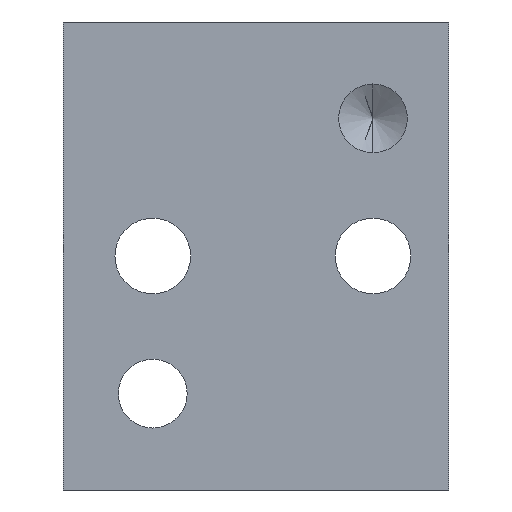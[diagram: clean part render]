
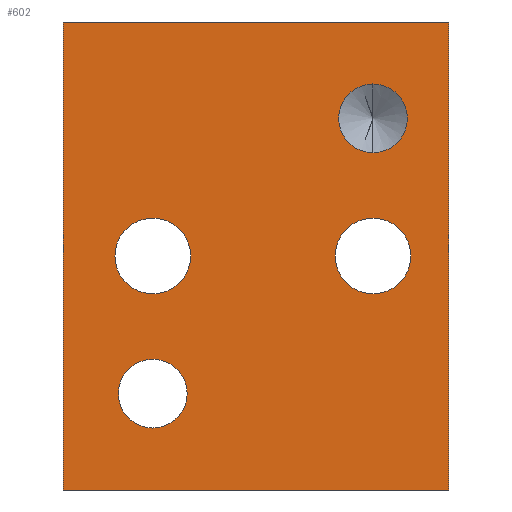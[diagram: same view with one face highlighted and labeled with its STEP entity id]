
A CAD part, front view. The second image highlights one B-rep face of the part: STEP entity #602.
In plain terms, the highlighted planar face has unit normal (0, -1, 0).
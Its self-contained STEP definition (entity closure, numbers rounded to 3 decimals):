
#10 = CIRCLE ( 'NONE', #516, 2.5 ) ;
#18 = CIRCLE ( 'NONE', #518, 2.5 ) ;
#30 = CIRCLE ( 'NONE', #521, 2.75 ) ;
#39 = FACE_BOUND ( 'NONE', #966, .T. ) ;
#43 = FACE_OUTER_BOUND ( 'NONE', #972, .T. ) ;
#44 = FACE_BOUND ( 'NONE', #454, .T. ) ;
#45 = FACE_BOUND ( 'NONE', #968, .T. ) ;
#47 = FACE_BOUND ( 'NONE', #798, .T. ) ;
#138 = VERTEX_POINT ( 'NONE', #778 ) ;
#140 = VERTEX_POINT ( 'NONE', #785 ) ;
#153 = VERTEX_POINT ( 'NONE', #771 ) ;
#230 = CARTESIAN_POINT ( 'NONE',  ( -28., 0., -17. ) ) ;
#231 = CARTESIAN_POINT ( 'NONE',  ( -21.5, 0., -10. ) ) ;
#232 = DIRECTION ( 'NONE',  ( 0., -1., 0. ) ) ;
#233 = DIRECTION ( 'NONE',  ( 0., 0., -1. ) ) ;
#234 = CARTESIAN_POINT ( 'NONE',  ( -5.5, 0., 10. ) ) ;
#235 = DIRECTION ( 'NONE',  ( 0., -1., 0. ) ) ;
#236 = DIRECTION ( 'NONE',  ( 0., 0., -1. ) ) ;
#237 = DIRECTION ( 'NONE',  ( 1., 0., 0. ) ) ;
#238 = CARTESIAN_POINT ( 'NONE',  ( -21.5, 0., 0. ) ) ;
#239 = DIRECTION ( 'NONE',  ( 0., 1., 0. ) ) ;
#240 = DIRECTION ( 'NONE',  ( 0., 0., 1. ) ) ;
#241 = CARTESIAN_POINT ( 'NONE',  ( -28., 0., 17. ) ) ;
#242 = CARTESIAN_POINT ( 'NONE',  ( 0., 0., 17. ) ) ;
#243 = CARTESIAN_POINT ( 'NONE',  ( -5.5, 0., 0. ) ) ;
#244 = DIRECTION ( 'NONE',  ( 0., 1., 0. ) ) ;
#245 = DIRECTION ( 'NONE',  ( 0., 0., 1. ) ) ;
#246 = CARTESIAN_POINT ( 'NONE',  ( -28., 0., 17. ) ) ;
#247 = DIRECTION ( 'NONE',  ( 0., 0., -1. ) ) ;
#248 = DIRECTION ( 'NONE',  ( 1., 0., 0. ) ) ;
#249 = DIRECTION ( 'NONE',  ( 0., 0., -1. ) ) ;
#335 = CARTESIAN_POINT ( 'NONE',  ( -21.5, 0., -10. ) ) ;
#336 = DIRECTION ( 'NONE',  ( 0., -1., 0. ) ) ;
#337 = DIRECTION ( 'NONE',  ( 0., 0., -1. ) ) ;
#352 = CARTESIAN_POINT ( 'NONE',  ( -5.5, 0., 10. ) ) ;
#353 = DIRECTION ( 'NONE',  ( 0., -1., 0. ) ) ;
#354 = DIRECTION ( 'NONE',  ( 0., 0., -1. ) ) ;
#367 = CARTESIAN_POINT ( 'NONE',  ( -21.5, 0., 0. ) ) ;
#368 = DIRECTION ( 'NONE',  ( 0., 1., 0. ) ) ;
#369 = DIRECTION ( 'NONE',  ( 0., 0., 1. ) ) ;
#383 = DIRECTION ( 'NONE',  ( 0., 1., 0. ) ) ;
#385 = PLANE ( 'NONE',  #528 ) ;
#387 = CARTESIAN_POINT ( 'NONE',  ( -28., 0., 17. ) ) ;
#389 = DIRECTION ( 'NONE',  ( 0., 0., 1. ) ) ;
#439 = VERTEX_POINT ( 'NONE', #735 ) ;
#447 = VERTEX_POINT ( 'NONE', #725 ) ;
#448 = VERTEX_POINT ( 'NONE', #707 ) ;
#449 = VERTEX_POINT ( 'NONE', #722 ) ;
#454 = EDGE_LOOP ( 'NONE', ( #863, #887 ) ) ;
#462 = VERTEX_POINT ( 'NONE', #716 ) ;
#463 = VERTEX_POINT ( 'NONE', #709 ) ;
#471 = VERTEX_POINT ( 'NONE', #742 ) ;
#476 = EDGE_CURVE ( 'NONE', #140, #138, #1012, .T. ) ;
#487 = AXIS2_PLACEMENT_3D ( 'NONE', #713, #712, #711 ) ;
#494 = AXIS2_PLACEMENT_3D ( 'NONE', #231, #232, #233 ) ;
#495 = AXIS2_PLACEMENT_3D ( 'NONE', #234, #235, #236 ) ;
#496 = AXIS2_PLACEMENT_3D ( 'NONE', #238, #239, #240 ) ;
#497 = AXIS2_PLACEMENT_3D ( 'NONE', #243, #244, #245 ) ;
#516 = AXIS2_PLACEMENT_3D ( 'NONE', #335, #336, #337 ) ;
#518 = AXIS2_PLACEMENT_3D ( 'NONE', #352, #353, #354 ) ;
#521 = AXIS2_PLACEMENT_3D ( 'NONE', #367, #368, #369 ) ;
#528 = AXIS2_PLACEMENT_3D ( 'NONE', #387, #383, #389 ) ;
#541 = EDGE_CURVE ( 'NONE', #471, #462, #1032, .T. ) ;
#542 = EDGE_CURVE ( 'NONE', #449, #463, #1036, .T. ) ;
#543 = EDGE_CURVE ( 'NONE', #447, #448, #1038, .T. ) ;
#544 = EDGE_CURVE ( 'NONE', #138, #140, #1039, .T. ) ;
#545 = EDGE_CURVE ( 'NONE', #153, #791, #1041, .T. ) ;
#546 = EDGE_CURVE ( 'NONE', #439, #791, #1040, .T. ) ;
#547 = EDGE_CURVE ( 'NONE', #787, #439, #1042, .T. ) ;
#548 = EDGE_CURVE ( 'NONE', #787, #153, #1044, .T. ) ;
#581 = EDGE_CURVE ( 'NONE', #462, #471, #10, .T. ) ;
#588 = EDGE_CURVE ( 'NONE', #463, #449, #18, .T. ) ;
#594 = EDGE_CURVE ( 'NONE', #448, #447, #30, .T. ) ;
#602 = ADVANCED_FACE ( 'NONE', ( #39, #47, #45, #44, #43 ), #385, .F. ) ;
#669 = CARTESIAN_POINT ( 'NONE',  ( 0., 0., -17. ) ) ;
#672 = CARTESIAN_POINT ( 'NONE',  ( -28., 0., 17. ) ) ;
#707 = CARTESIAN_POINT ( 'NONE',  ( -21.5, 0., -2.75 ) ) ;
#709 = CARTESIAN_POINT ( 'NONE',  ( -5.5, 0., 12.5 ) ) ;
#711 = DIRECTION ( 'NONE',  ( 0., 0., 1. ) ) ;
#712 = DIRECTION ( 'NONE',  ( 0., 1., 0. ) ) ;
#713 = CARTESIAN_POINT ( 'NONE',  ( -5.5, 0., 0. ) ) ;
#716 = CARTESIAN_POINT ( 'NONE',  ( -21.5, 0., -7.5 ) ) ;
#722 = CARTESIAN_POINT ( 'NONE',  ( -5.5, 0., 7.5 ) ) ;
#725 = CARTESIAN_POINT ( 'NONE',  ( -21.5, 0., 2.75 ) ) ;
#735 = CARTESIAN_POINT ( 'NONE',  ( 0., 0., 17. ) ) ;
#742 = CARTESIAN_POINT ( 'NONE',  ( -21.5, 0., -12.5 ) ) ;
#771 = CARTESIAN_POINT ( 'NONE',  ( -28., 0., -17. ) ) ;
#778 = CARTESIAN_POINT ( 'NONE',  ( -5.5, 0., 2.75 ) ) ;
#785 = CARTESIAN_POINT ( 'NONE',  ( -5.5, 0., -2.75 ) ) ;
#787 = VERTEX_POINT ( 'NONE', #672 ) ;
#791 = VERTEX_POINT ( 'NONE', #669 ) ;
#798 = EDGE_LOOP ( 'NONE', ( #891, #892 ) ) ;
#825 = ORIENTED_EDGE ( 'NONE', *, *, #541, .F. ) ;
#841 = ORIENTED_EDGE ( 'NONE', *, *, #543, .T. ) ;
#842 = ORIENTED_EDGE ( 'NONE', *, *, #547, .F. ) ;
#844 = ORIENTED_EDGE ( 'NONE', *, *, #548, .T. ) ;
#863 = ORIENTED_EDGE ( 'NONE', *, *, #544, .T. ) ;
#872 = ORIENTED_EDGE ( 'NONE', *, *, #594, .T. ) ;
#874 = ORIENTED_EDGE ( 'NONE', *, *, #545, .T. ) ;
#883 = ORIENTED_EDGE ( 'NONE', *, *, #546, .F. ) ;
#887 = ORIENTED_EDGE ( 'NONE', *, *, #476, .T. ) ;
#891 = ORIENTED_EDGE ( 'NONE', *, *, #542, .F. ) ;
#892 = ORIENTED_EDGE ( 'NONE', *, *, #588, .F. ) ;
#899 = ORIENTED_EDGE ( 'NONE', *, *, #581, .F. ) ;
#966 = EDGE_LOOP ( 'NONE', ( #825, #899 ) ) ;
#968 = EDGE_LOOP ( 'NONE', ( #841, #872 ) ) ;
#972 = EDGE_LOOP ( 'NONE', ( #874, #883, #842, #844 ) ) ;
#1012 = CIRCLE ( 'NONE', #487, 2.75 ) ;
#1032 = CIRCLE ( 'NONE', #494, 2.5 ) ;
#1036 = CIRCLE ( 'NONE', #495, 2.5 ) ;
#1038 = CIRCLE ( 'NONE', #496, 2.75 ) ;
#1039 = CIRCLE ( 'NONE', #497, 2.75 ) ;
#1040 = LINE ( 'NONE', #242, #1045 ) ;
#1041 = LINE ( 'NONE', #230, #1043 ) ;
#1042 = LINE ( 'NONE', #241, #1047 ) ;
#1043 = VECTOR ( 'NONE', #237, 1000. ) ;
#1044 = LINE ( 'NONE', #246, #1049 ) ;
#1045 = VECTOR ( 'NONE', #247, 1000. ) ;
#1047 = VECTOR ( 'NONE', #248, 1000. ) ;
#1049 = VECTOR ( 'NONE', #249, 1000. ) ;
